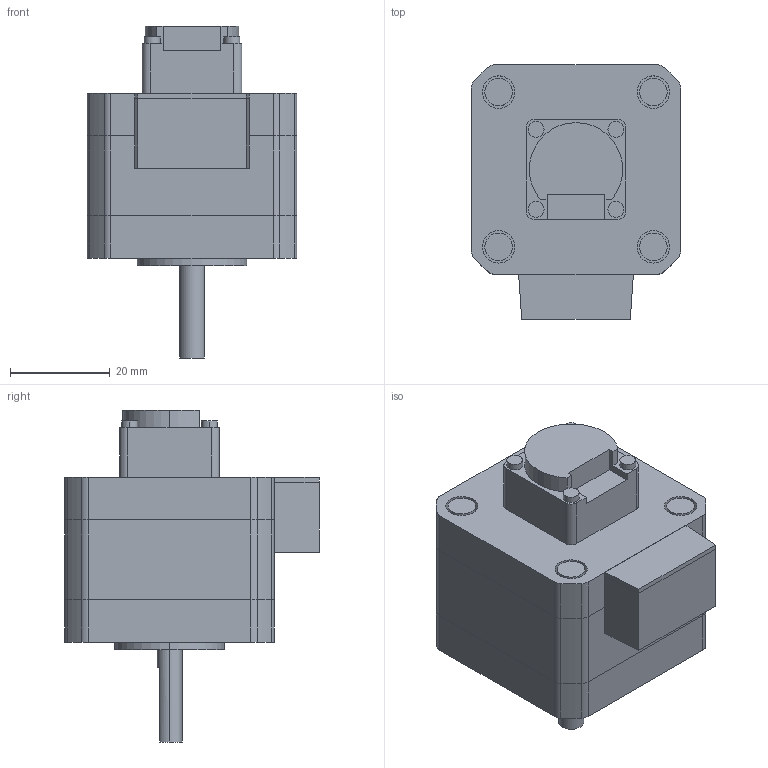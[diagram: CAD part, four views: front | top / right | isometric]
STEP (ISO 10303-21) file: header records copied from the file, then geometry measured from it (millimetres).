
FILE_DESCRIPTION (( 'STEP AP214' ), '1' );
FILE_NAME ('PKP243_ECƒ‚ƒfƒ‹.STEP', '2017-01-20T01:23:27', ( 'om' ), ( 'Hewlett-Packard Company' ), 'SwSTEP 2.0', 'SolidWorks 2014', '' );
FILE_SCHEMA (( 'AUTOMOTIVE_DESIGN' ));
Length unit declared in the file: millimetre
Products named in the file (1): PKP243_ECモデル
Bounding box: 42 x 51 x 66.5 mm (x, y, z)
Volume: 64186.3 mm3; surface area: 20426.1 mm2
Topology: 5 solids, 5 shells, 175 faces, 414 edges, 276 vertices
Faces by surface type: cylinder 101, plane 74
Entity records: 5570 total; most frequent: DIRECTION 970, CARTESIAN_POINT 866, ORIENTED_EDGE 828, EDGE_CURVE 414, AXIS2_PLACEMENT_3D 380, VERTEX_POINT 276, EDGE_LOOP 210, LINE 210
